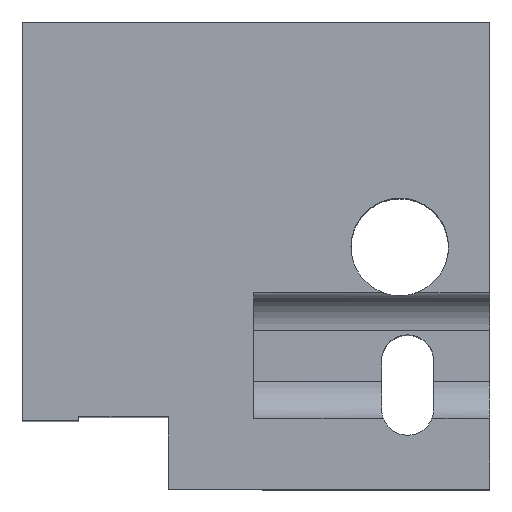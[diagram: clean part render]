
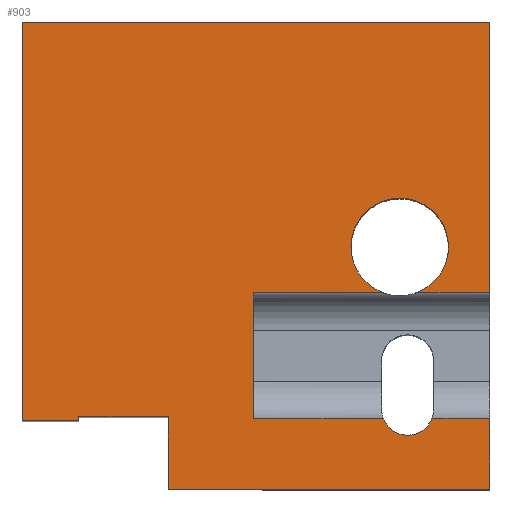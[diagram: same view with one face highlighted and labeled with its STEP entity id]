
A CAD part, top view. The second image highlights one B-rep face of the part: STEP entity #903.
In plain terms, the highlighted planar face has unit normal (0, 0, 1).
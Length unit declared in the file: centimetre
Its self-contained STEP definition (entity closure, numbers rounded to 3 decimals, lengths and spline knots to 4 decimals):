
#13 = DIRECTION ( 'NONE',  ( 0., 0., 1. ) ) ;
#19 = ORIENTED_EDGE ( 'NONE', *, *, #1576, .T. ) ;
#29 = CARTESIAN_POINT ( 'NONE',  ( 1000., 1000., 1000. ) ) ;
#51 = VERTEX_POINT ( 'NONE', #955 ) ;
#55 = CARTESIAN_POINT ( 'NONE',  ( 807.7191, 518.6561, 1000. ) ) ;
#57 = ORIENTED_EDGE ( 'NONE', *, *, #444, .F. ) ;
#71 = LINE ( 'NONE', #930, #1355 ) ;
#77 = VECTOR ( 'NONE', #443, 100. ) ;
#80 = ORIENTED_EDGE ( 'NONE', *, *, #747, .T. ) ;
#106 = CARTESIAN_POINT ( 'NONE',  ( 841.8864, 419.9854, 1000. ) ) ;
#108 = VECTOR ( 'NONE', #1774, 100. ) ;
#112 = VECTOR ( 'NONE', #724, 100. ) ;
#119 = ORIENTED_EDGE ( 'NONE', *, *, #1795, .F. ) ;
#120 = EDGE_CURVE ( 'NONE', #258, #1011, #71, .T. ) ;
#123 = EDGE_CURVE ( 'NONE', #1767, #1486, #1523, .T. ) ;
#136 = CARTESIAN_POINT ( 'NONE',  ( 0., 0., 1000. ) ) ;
#138 = ORIENTED_EDGE ( 'NONE', *, *, #575, .T. ) ;
#142 = LINE ( 'NONE', #1581, #686 ) ;
#170 = DIRECTION ( 'NONE',  ( 1., 0., 0. ) ) ;
#186 = CARTESIAN_POINT ( 'NONE',  ( 494.8297, 150.8371, 1000. ) ) ;
#194 = CIRCLE ( 'NONE', #1758, 104.419 ) ;
#211 = DIRECTION ( 'NONE',  ( -1., 0., 0. ) ) ;
#226 = DIRECTION ( 'NONE',  ( 1., 0., 0. ) ) ;
#232 = CARTESIAN_POINT ( 'NONE',  ( 1000., 1000., 1000. ) ) ;
#234 = AXIS2_PLACEMENT_3D ( 'NONE', #136, #13, #1728 ) ;
#235 = DIRECTION ( 'NONE',  ( 1., 0., 0. ) ) ;
#258 = VERTEX_POINT ( 'NONE', #1624 ) ;
#263 = VERTEX_POINT ( 'NONE', #1286 ) ;
#315 = DIRECTION ( 'NONE',  ( 1., 0., 0. ) ) ;
#322 = VERTEX_POINT ( 'NONE', #478 ) ;
#344 = DIRECTION ( 'NONE',  ( 1., 0., 0. ) ) ;
#352 = VERTEX_POINT ( 'NONE', #754 ) ;
#370 = VERTEX_POINT ( 'NONE', #29 ) ;
#384 = LINE ( 'NONE', #1085, #642 ) ;
#395 = EDGE_CURVE ( 'NONE', #430, #352, #1607, .T. ) ;
#399 = ORIENTED_EDGE ( 'NONE', *, *, #123, .F. ) ;
#430 = VERTEX_POINT ( 'NONE', #186 ) ;
#441 = AXIS2_PLACEMENT_3D ( 'NONE', #55, #1022, #170 ) ;
#443 = DIRECTION ( 'NONE',  ( -1., 0., 0. ) ) ;
#444 = EDGE_CURVE ( 'NONE', #869, #1226, #194, .T. ) ;
#446 = VECTOR ( 'NONE', #315, 100. ) ;
#458 = ORIENTED_EDGE ( 'NONE', *, *, #832, .T. ) ;
#466 = ORIENTED_EDGE ( 'NONE', *, *, #649, .T. ) ;
#478 = CARTESIAN_POINT ( 'NONE',  ( 1000., 419.9854, 1000. ) ) ;
#519 = CARTESIAN_POINT ( 'NONE',  ( 703.3001, 518.6561, 1000. ) ) ;
#531 = ORIENTED_EDGE ( 'NONE', *, *, #1511, .T. ) ;
#537 = CARTESIAN_POINT ( 'NONE',  ( 494.8297, 419.9854, 1000. ) ) ;
#541 = EDGE_CURVE ( 'NONE', #1200, #1767, #1494, .T. ) ;
#545 = DIRECTION ( 'NONE',  ( 0., 0., 1. ) ) ;
#553 = LINE ( 'NONE', #579, #112 ) ;
#565 = VERTEX_POINT ( 'NONE', #1692 ) ;
#568 = VERTEX_POINT ( 'NONE', #1804 ) ;
#570 = LINE ( 'NONE', #1735, #1005 ) ;
#575 = EDGE_CURVE ( 'NONE', #1011, #263, #384, .T. ) ;
#579 = CARTESIAN_POINT ( 'NONE',  ( 494.8297, 0., 1000. ) ) ;
#580 = ORIENTED_EDGE ( 'NONE', *, *, #120, .T. ) ;
#585 = VECTOR ( 'NONE', #1373, 100. ) ;
#594 = AXIS2_PLACEMENT_3D ( 'NONE', #1367, #941, #226 ) ;
#603 = CARTESIAN_POINT ( 'NONE',  ( 494.8297, 150.8371, 1000. ) ) ;
#608 = CARTESIAN_POINT ( 'NONE',  ( 876.2964, 150.8371, 1000. ) ) ;
#613 = VERTEX_POINT ( 'NONE', #1817 ) ;
#624 = VECTOR ( 'NONE', #1832, 100. ) ;
#637 = ORIENTED_EDGE ( 'NONE', *, *, #1641, .T. ) ;
#640 = CARTESIAN_POINT ( 'NONE',  ( 494.8297, 150.8371, 1000. ) ) ;
#642 = VECTOR ( 'NONE', #1217, 100. ) ;
#649 = EDGE_CURVE ( 'NONE', #568, #613, #1055, .T. ) ;
#661 = CARTESIAN_POINT ( 'NONE',  ( 807.7191, 518.6561, 1000. ) ) ;
#686 = VECTOR ( 'NONE', #958, 100. ) ;
#724 = DIRECTION ( 'NONE',  ( 0., 1., 0. ) ) ;
#747 = EDGE_CURVE ( 'NONE', #51, #565, #570, .T. ) ;
#754 = CARTESIAN_POINT ( 'NONE',  ( 772.6286, 150.8371, 1000. ) ) ;
#762 = CARTESIAN_POINT ( 'NONE',  ( 312.6283, 154.6449, 1000. ) ) ;
#789 = CARTESIAN_POINT ( 'NONE',  ( 912.1381, 518.6561, 1000. ) ) ;
#827 = LINE ( 'NONE', #640, #624 ) ;
#832 = EDGE_CURVE ( 'NONE', #322, #370, #945, .T. ) ;
#857 = CARTESIAN_POINT ( 'NONE',  ( 0., 146.033, 1000. ) ) ;
#866 = LINE ( 'NONE', #857, #1377 ) ;
#869 = VERTEX_POINT ( 'NONE', #106 ) ;
#877 = VERTEX_POINT ( 'NONE', #1592 ) ;
#903 = ADVANCED_FACE ( 'NONE', ( #1434 ), #1886, .T. ) ;
#914 = ORIENTED_EDGE ( 'NONE', *, *, #1321, .F. ) ;
#930 = CARTESIAN_POINT ( 'NONE',  ( 120.6018, 154.6449, 1000. ) ) ;
#941 = DIRECTION ( 'NONE',  ( 0., 0., 1. ) ) ;
#945 = LINE ( 'NONE', #232, #585 ) ;
#955 = CARTESIAN_POINT ( 'NONE',  ( 1000., 0., 1000. ) ) ;
#958 = DIRECTION ( 'NONE',  ( -1., 0., 0. ) ) ;
#1005 = VECTOR ( 'NONE', #1870, 100. ) ;
#1006 = AXIS2_PLACEMENT_3D ( 'NONE', #1249, #545, #1229 ) ;
#1011 = VERTEX_POINT ( 'NONE', #762 ) ;
#1022 = DIRECTION ( 'NONE',  ( 0., 0., 1. ) ) ;
#1027 = EDGE_CURVE ( 'NONE', #263, #51, #1766, .T. ) ;
#1055 = LINE ( 'NONE', #1351, #1513 ) ;
#1085 = CARTESIAN_POINT ( 'NONE',  ( 312.6283, 0., 1000. ) ) ;
#1118 = DIRECTION ( 'NONE',  ( 1., 0., 0. ) ) ;
#1127 = DIRECTION ( 'NONE',  ( 0., 1., 0. ) ) ;
#1132 = CIRCLE ( 'NONE', #1006, 55.6298 ) ;
#1140 = VECTOR ( 'NONE', #211, 100. ) ;
#1148 = CARTESIAN_POINT ( 'NONE',  ( 494.8297, 419.9854, 1000. ) ) ;
#1152 = ORIENTED_EDGE ( 'NONE', *, *, #395, .F. ) ;
#1163 = VECTOR ( 'NONE', #1127, 100. ) ;
#1182 = CARTESIAN_POINT ( 'NONE',  ( 773.5517, 419.9854, 1000. ) ) ;
#1200 = VERTEX_POINT ( 'NONE', #519 ) ;
#1217 = DIRECTION ( 'NONE',  ( 0., -1., 0. ) ) ;
#1226 = VERTEX_POINT ( 'NONE', #789 ) ;
#1229 = DIRECTION ( 'NONE',  ( -1., 0., 0. ) ) ;
#1237 = DIRECTION ( 'NONE',  ( 0., 0., 1. ) ) ;
#1249 = CARTESIAN_POINT ( 'NONE',  ( 824.4625, 171.0342, 1000. ) ) ;
#1286 = CARTESIAN_POINT ( 'NONE',  ( 312.6283, 0., 1000. ) ) ;
#1321 = EDGE_CURVE ( 'NONE', #352, #1785, #1132, .T. ) ;
#1342 = EDGE_CURVE ( 'NONE', #1785, #565, #827, .T. ) ;
#1351 = CARTESIAN_POINT ( 'NONE',  ( 0., 1000., 1000. ) ) ;
#1355 = VECTOR ( 'NONE', #235, 100. ) ;
#1362 = CARTESIAN_POINT ( 'NONE',  ( 0., 0., 1000. ) ) ;
#1367 = CARTESIAN_POINT ( 'NONE',  ( 807.7191, 518.6561, 1000. ) ) ;
#1373 = DIRECTION ( 'NONE',  ( 0., 1., 0. ) ) ;
#1377 = VECTOR ( 'NONE', #1118, 100. ) ;
#1379 = ORIENTED_EDGE ( 'NONE', *, *, #1027, .T. ) ;
#1421 = CARTESIAN_POINT ( 'NONE',  ( 120.6018, 0., 1000. ) ) ;
#1434 = FACE_OUTER_BOUND ( 'NONE', #1777, .T. ) ;
#1453 = EDGE_CURVE ( 'NONE', #613, #877, #866, .T. ) ;
#1486 = VERTEX_POINT ( 'NONE', #1148 ) ;
#1494 = CIRCLE ( 'NONE', #594, 104.419 ) ;
#1511 = EDGE_CURVE ( 'NONE', #370, #568, #1584, .T. ) ;
#1513 = VECTOR ( 'NONE', #1671, 100. ) ;
#1523 = LINE ( 'NONE', #537, #1140 ) ;
#1549 = ORIENTED_EDGE ( 'NONE', *, *, #541, .F. ) ;
#1550 = ORIENTED_EDGE ( 'NONE', *, *, #1453, .T. ) ;
#1576 = EDGE_CURVE ( 'NONE', #877, #258, #1682, .T. ) ;
#1577 = ORIENTED_EDGE ( 'NONE', *, *, #1342, .F. ) ;
#1581 = CARTESIAN_POINT ( 'NONE',  ( 494.8297, 419.9854, 1000. ) ) ;
#1584 = LINE ( 'NONE', #1752, #77 ) ;
#1592 = CARTESIAN_POINT ( 'NONE',  ( 120.6018, 146.033, 1000. ) ) ;
#1607 = LINE ( 'NONE', #603, #446 ) ;
#1617 = ORIENTED_EDGE ( 'NONE', *, *, #1652, .F. ) ;
#1624 = CARTESIAN_POINT ( 'NONE',  ( 120.6018, 154.6449, 1000. ) ) ;
#1641 = EDGE_CURVE ( 'NONE', #430, #1486, #553, .T. ) ;
#1652 = EDGE_CURVE ( 'NONE', #322, #869, #142, .T. ) ;
#1671 = DIRECTION ( 'NONE',  ( 0., -1., 0. ) ) ;
#1682 = LINE ( 'NONE', #1421, #1163 ) ;
#1690 = CIRCLE ( 'NONE', #441, 104.419 ) ;
#1692 = CARTESIAN_POINT ( 'NONE',  ( 1000., 150.8371, 1000. ) ) ;
#1728 = DIRECTION ( 'NONE',  ( 1., 0., 0. ) ) ;
#1735 = CARTESIAN_POINT ( 'NONE',  ( 1000., 1000., 1000. ) ) ;
#1752 = CARTESIAN_POINT ( 'NONE',  ( 0., 1000., 1000. ) ) ;
#1758 = AXIS2_PLACEMENT_3D ( 'NONE', #661, #1237, #344 ) ;
#1766 = LINE ( 'NONE', #1362, #108 ) ;
#1767 = VERTEX_POINT ( 'NONE', #1182 ) ;
#1774 = DIRECTION ( 'NONE',  ( 1., 0., 0. ) ) ;
#1777 = EDGE_LOOP ( 'NONE', ( #19, #580, #138, #1379, #80, #1577, #914, #1152, #637, #399, #1549, #119, #57, #1617, #458, #531, #466, #1550 ) ) ;
#1785 = VERTEX_POINT ( 'NONE', #608 ) ;
#1795 = EDGE_CURVE ( 'NONE', #1226, #1200, #1690, .T. ) ;
#1804 = CARTESIAN_POINT ( 'NONE',  ( 0., 1000., 1000. ) ) ;
#1817 = CARTESIAN_POINT ( 'NONE',  ( 0., 146.033, 1000. ) ) ;
#1832 = DIRECTION ( 'NONE',  ( 1., 0., 0. ) ) ;
#1870 = DIRECTION ( 'NONE',  ( 0., 1., 0. ) ) ;
#1886 = PLANE ( 'NONE',  #234 ) ;
